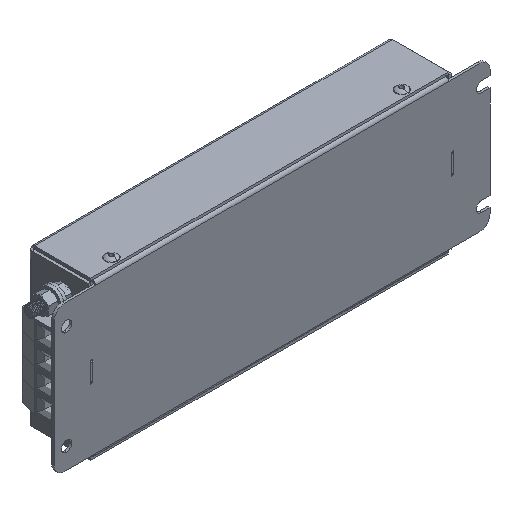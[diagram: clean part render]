
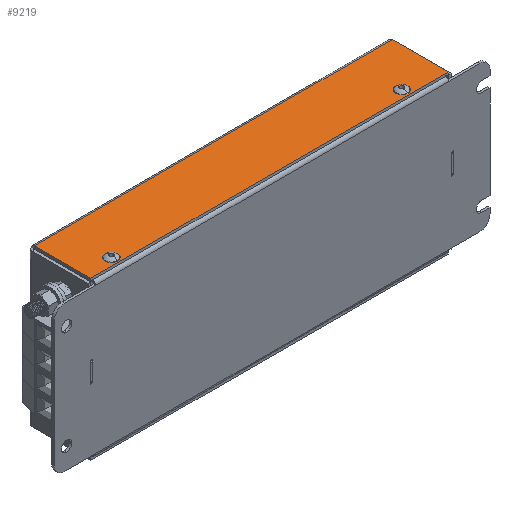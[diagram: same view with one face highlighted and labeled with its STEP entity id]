
A CAD part, isometric view. The second image highlights one B-rep face of the part: STEP entity #9219.
In plain terms, the highlighted planar face has unit normal (0, 0, 1).
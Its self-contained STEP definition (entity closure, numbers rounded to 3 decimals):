
#203 = VERTEX_POINT ( 'NONE', #8662 ) ;
#571 = AXIS2_PLACEMENT_3D ( 'NONE', #7974, #9674, #18896 ) ;
#607 = EDGE_CURVE ( 'NONE', #203, #8038, #4228, .T. ) ;
#785 = CARTESIAN_POINT ( 'NONE',  ( 173.623, -27.6, 0. ) ) ;
#810 = VERTEX_POINT ( 'NONE', #15257 ) ;
#1111 = CARTESIAN_POINT ( 'NONE',  ( 155., -23.8, 0. ) ) ;
#1577 = ORIENTED_EDGE ( 'NONE', *, *, #3991, .T. ) ;
#1947 = CARTESIAN_POINT ( 'NONE',  ( 0., 0., 0. ) ) ;
#2212 = LINE ( 'NONE', #3187, #9553 ) ;
#2472 = FACE_BOUND ( 'NONE', #14879, .T. ) ;
#2654 = DIRECTION ( 'NONE',  ( 0., -1., 0. ) ) ;
#3187 = CARTESIAN_POINT ( 'NONE',  ( 173.623, 0., 0. ) ) ;
#3188 = DIRECTION ( 'NONE',  ( 0., 1., 0. ) ) ;
#3304 = AXIS2_PLACEMENT_3D ( 'NONE', #17330, #18854, #9701 ) ;
#3438 = DIRECTION ( 'NONE',  ( 0., -1., 0. ) ) ;
#3781 = AXIS2_PLACEMENT_3D ( 'NONE', #1111, #11701, #2654 ) ;
#3802 = AXIS2_PLACEMENT_3D ( 'NONE', #6172, #15183, #4492 ) ;
#3991 = EDGE_CURVE ( 'NONE', #11912, #810, #18838, .T. ) ;
#4173 = AXIS2_PLACEMENT_3D ( 'NONE', #1947, #10771, #3438 ) ;
#4228 = CIRCLE ( 'NONE', #3304, 2.75 ) ;
#4433 = CARTESIAN_POINT ( 'NONE',  ( 173.623, -0.5, 0. ) ) ;
#4492 = DIRECTION ( 'NONE',  ( 0., -1., 0. ) ) ;
#5446 = DIRECTION ( 'NONE',  ( -1., 0., 0. ) ) ;
#5632 = EDGE_LOOP ( 'NONE', ( #18170, #17365 ) ) ;
#5706 = ORIENTED_EDGE ( 'NONE', *, *, #17999, .F. ) ;
#5865 = CARTESIAN_POINT ( 'NONE',  ( 17.75, -23.8, 0. ) ) ;
#6172 = CARTESIAN_POINT ( 'NONE',  ( 155., -23.8, 0. ) ) ;
#6317 = LINE ( 'NONE', #6382, #19185 ) ;
#6382 = CARTESIAN_POINT ( 'NONE',  ( 1.377, 0., 0. ) ) ;
#6941 = FACE_BOUND ( 'NONE', #5632, .T. ) ;
#7974 = CARTESIAN_POINT ( 'NONE',  ( 15., -23.8, 0. ) ) ;
#8038 = VERTEX_POINT ( 'NONE', #5865 ) ;
#8662 = CARTESIAN_POINT ( 'NONE',  ( 12.25, -23.8, 0. ) ) ;
#9139 = EDGE_CURVE ( 'NONE', #16563, #17557, #2212, .T. ) ;
#9219 = ADVANCED_FACE ( 'NONE', ( #6941, #2472, #18640 ), #18584, .T. ) ;
#9553 = VECTOR ( 'NONE', #18261, 1000. ) ;
#9674 = DIRECTION ( 'NONE',  ( 0., 0., -1. ) ) ;
#9701 = DIRECTION ( 'NONE',  ( 0., -1., 0. ) ) ;
#10659 = CARTESIAN_POINT ( 'NONE',  ( 1.377, -27.6, 0. ) ) ;
#10771 = DIRECTION ( 'NONE',  ( 0., 0., 1. ) ) ;
#10975 = EDGE_LOOP ( 'NONE', ( #11242, #5706, #16302, #12190 ) ) ;
#11107 = EDGE_CURVE ( 'NONE', #17557, #13747, #14031, .T. ) ;
#11186 = CIRCLE ( 'NONE', #571, 2.75 ) ;
#11242 = ORIENTED_EDGE ( 'NONE', *, *, #15030, .F. ) ;
#11433 = LINE ( 'NONE', #14497, #17172 ) ;
#11701 = DIRECTION ( 'NONE',  ( 0., 0., -1. ) ) ;
#11912 = VERTEX_POINT ( 'NONE', #18611 ) ;
#12016 = DIRECTION ( 'NONE',  ( -1., 0., 0. ) ) ;
#12163 = EDGE_CURVE ( 'NONE', #810, #11912, #16140, .T. ) ;
#12190 = ORIENTED_EDGE ( 'NONE', *, *, #11107, .T. ) ;
#13550 = VECTOR ( 'NONE', #12016, 1000. ) ;
#13747 = VERTEX_POINT ( 'NONE', #16639 ) ;
#14031 = LINE ( 'NONE', #15058, #13550 ) ;
#14497 = CARTESIAN_POINT ( 'NONE',  ( 0., -27.6, 0. ) ) ;
#14879 = EDGE_LOOP ( 'NONE', ( #17702, #1577 ) ) ;
#15030 = EDGE_CURVE ( 'NONE', #16896, #13747, #6317, .T. ) ;
#15058 = CARTESIAN_POINT ( 'NONE',  ( 0., -0.5, 0. ) ) ;
#15183 = DIRECTION ( 'NONE',  ( 0., 0., -1. ) ) ;
#15257 = CARTESIAN_POINT ( 'NONE',  ( 157.75, -23.8, 0. ) ) ;
#16140 = CIRCLE ( 'NONE', #3802, 2.75 ) ;
#16302 = ORIENTED_EDGE ( 'NONE', *, *, #9139, .T. ) ;
#16563 = VERTEX_POINT ( 'NONE', #785 ) ;
#16639 = CARTESIAN_POINT ( 'NONE',  ( 1.377, -0.5, 0. ) ) ;
#16896 = VERTEX_POINT ( 'NONE', #10659 ) ;
#17172 = VECTOR ( 'NONE', #5446, 1000. ) ;
#17330 = CARTESIAN_POINT ( 'NONE',  ( 15., -23.8, 0. ) ) ;
#17365 = ORIENTED_EDGE ( 'NONE', *, *, #607, .T. ) ;
#17557 = VERTEX_POINT ( 'NONE', #4433 ) ;
#17702 = ORIENTED_EDGE ( 'NONE', *, *, #12163, .T. ) ;
#17837 = EDGE_CURVE ( 'NONE', #8038, #203, #11186, .T. ) ;
#17999 = EDGE_CURVE ( 'NONE', #16563, #16896, #11433, .T. ) ;
#18170 = ORIENTED_EDGE ( 'NONE', *, *, #17837, .T. ) ;
#18261 = DIRECTION ( 'NONE',  ( 0., 1., 0. ) ) ;
#18584 = PLANE ( 'NONE',  #4173 ) ;
#18611 = CARTESIAN_POINT ( 'NONE',  ( 152.25, -23.8, 0. ) ) ;
#18640 = FACE_OUTER_BOUND ( 'NONE', #10975, .T. ) ;
#18838 = CIRCLE ( 'NONE', #3781, 2.75 ) ;
#18854 = DIRECTION ( 'NONE',  ( 0., 0., -1. ) ) ;
#18896 = DIRECTION ( 'NONE',  ( 0., -1., 0. ) ) ;
#19185 = VECTOR ( 'NONE', #3188, 1000. ) ;
